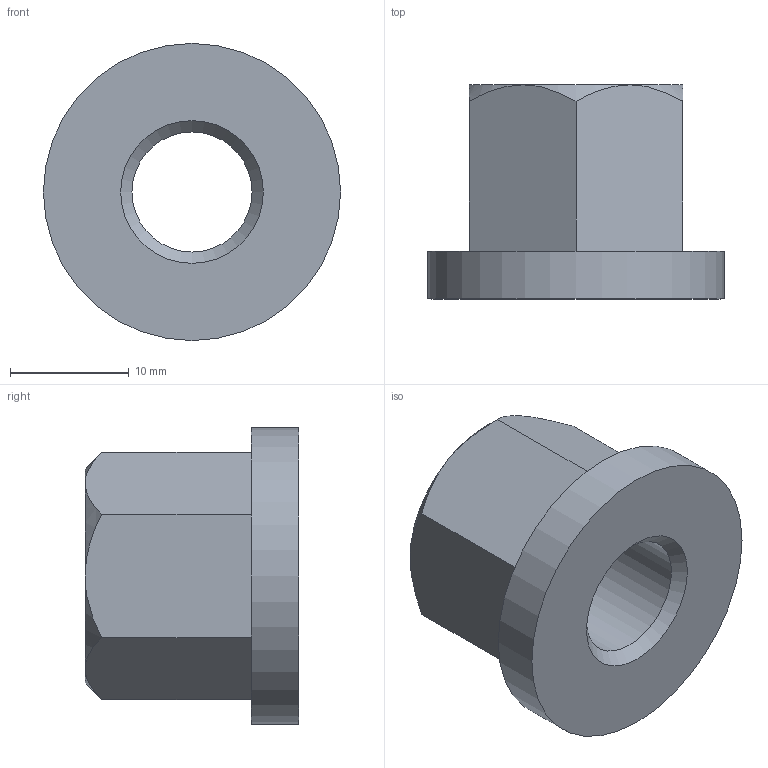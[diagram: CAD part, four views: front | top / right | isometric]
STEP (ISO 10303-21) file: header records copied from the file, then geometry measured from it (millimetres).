
FILE_DESCRIPTION( ( 'STEP AP203' ), '1' );
FILE_NAME( 'C:/Temp/Ganter_Step_05_03_2020/data/3_2/din6331/Hexagon nut DIN 6331-M12.stp', '2020-03-13T05:16:16', ( 'License CC BY-ND 4.0' ), ( 'CADENAS' ), ' ', 'PARTsolutions', ' ' );
FILE_SCHEMA( ( 'CONFIG_CONTROL_DESIGN' ) );
Length unit declared in the file: millimetre
Products named in the file (1): _Hexagon nut DIN 6331-M12
Bounding box: 25 x 18 x 25 mm (x, y, z)
Volume: 4406.7 mm3; surface area: 2528.1 mm2
Topology: 1 solids, 1 shells, 19 faces, 41 edges, 25 vertices
Faces by surface type: plane 9, cone 8, cylinder 2
Full cylindrical faces by diameter (mm): 10.106 x1, 25 x1
Entity records: 590 total; most frequent: CARTESIAN_POINT 164, DIRECTION 76, ORIENTED_EDGE 72, EDGE_CURVE 36, AXIS2_PLACEMENT_3D 32, EDGE_LOOP 26, VERTEX_POINT 24, FACE_OUTER_BOUND 21
